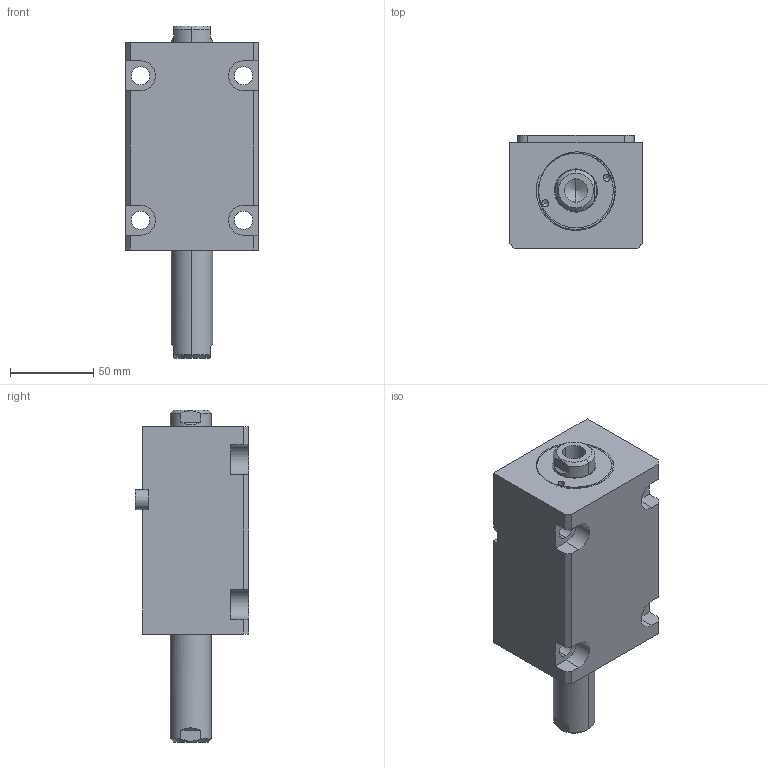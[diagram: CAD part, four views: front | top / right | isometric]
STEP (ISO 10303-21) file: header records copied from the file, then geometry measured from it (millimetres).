
FILE_DESCRIPTION (( 'STEP AP214' ), '1' );
FILE_NAME ('chtb-lwm40x55n_asm.STEP', '2018-05-30T08:23:43', ( 'Windows' ), ( 'Microsoft' ), 'SwSTEP 2.0', 'SolidWorks 2015', '' );
FILE_SCHEMA (( 'AUTOMOTIVE_DESIGN' ));
Length unit declared in the file: millimetre
Products named in the file (5): CHTB-SW40X55NHSG; CHTB-LWM40X55NBT; chtb-lwm40x55n_asm; CHTB-SD40QG; CHTB-LA40PJ
Assembly tree (4 placements, depth 2):
  chtb-lwm40x55n_asm
    CHTB-LWM40X55NBT
    CHTB-SW40X55NHSG
    CHTB-LA40PJ
    CHTB-SD40QG
Bounding box: 80 x 68.5 x 200 mm (x, y, z)
Volume: 593423 mm3; surface area: 102860.3 mm2
Topology: 4 solids, 4 shells, 166 faces, 450 edges, 296 vertices
Faces by surface type: cylinder 77, plane 50, bspline 14, cone 13, torus 12
Entity records: 10488 total; most frequent: CARTESIAN_POINT 6156, ORIENTED_EDGE 880, DIRECTION 821, EDGE_CURVE 440, AXIS2_PLACEMENT_3D 326, VERTEX_POINT 296, EDGE_LOOP 196, VECTOR 169
